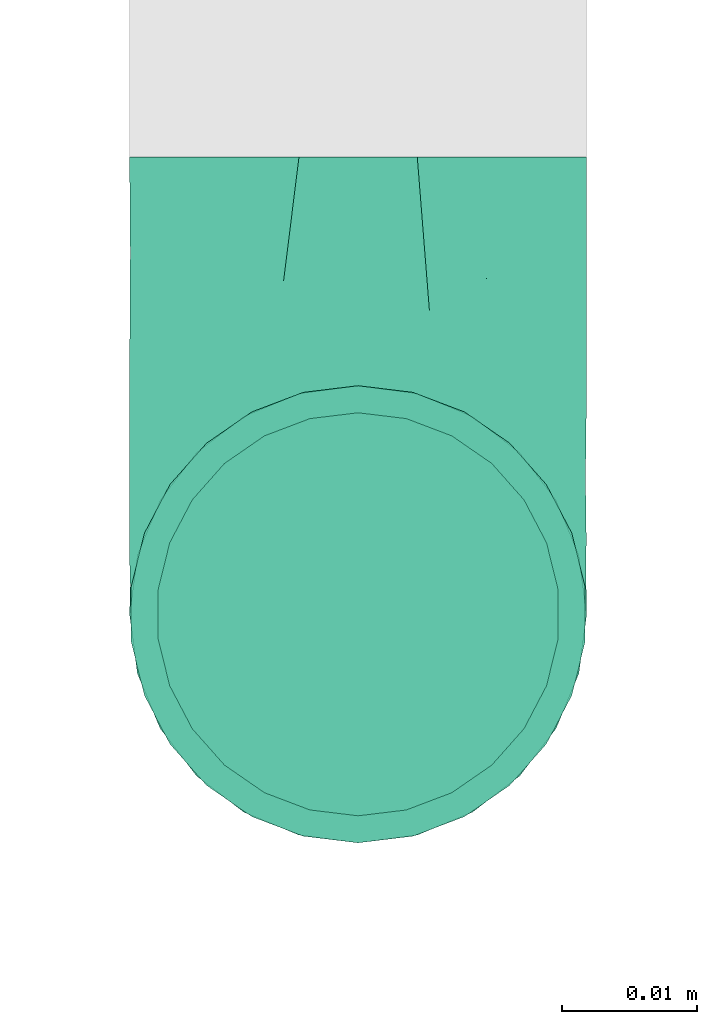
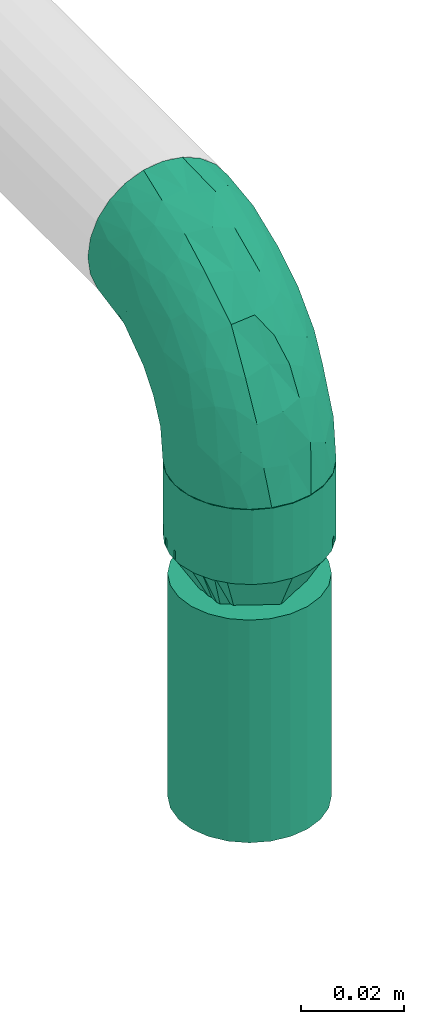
# One storey, part 14 of 32: 2 flow fittings, 1 flow segment, 1 flow terminal.
"""IFC2X3 building model written with IfcOpenShell, lengths in millimetres."""

from ifc_helpers import new_model, entity, si_unit, converted_unit, derived_unit, direction, frame, origin_with_axes, origin_2d_with_axis, place, context, subcontext, project, spatial, hollow_circle, extrude, open_shell, surface_model, source, transform, mapped, type_object, element, save


model = new_model("IFC2X3")

# Units and contexts
model_context = context("Model", 3, precision=0.01, world=frame((0.0, 4.29681676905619e-09, 0.0)), true_north=direction((4.01073788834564e-13, 1.0)))
plan_context = context("Plan", 3, precision=0.01, world=frame((0.0, 4.29681676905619e-09, 0.0)), true_north=direction((4.01073788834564e-13, 1.0)))
body_context = subcontext(model_context, "Body", "Model", "MODEL_VIEW")
ifc_project = project(units=[converted_unit("PLANEANGLEUNIT", "DEGREE", entity("IfcPositiveLengthMeasure", 0.0174532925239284), si_unit("PLANEANGLEUNIT", "RADIAN"), dimensions=[0, 0, 0, 0, 0, 0, 0]), si_unit("AREAUNIT", "SQUARE_METRE"), si_unit("LENGTHUNIT", "METRE", prefix="MILLI"), si_unit("MASSUNIT", "GRAM", prefix="KILO"), si_unit("POWERUNIT", "WATT"), si_unit("PRESSUREUNIT", "PASCAL", prefix="KILO"), si_unit("FORCEUNIT", "NEWTON", prefix="KILO"), si_unit("ELECTRICVOLTAGEUNIT", "VOLT"), si_unit("ELECTRICCURRENTUNIT", "AMPERE"), si_unit("THERMODYNAMICTEMPERATUREUNIT", "DEGREE_CELSIUS"), si_unit("TIMEUNIT", "SECOND"), si_unit("VOLUMEUNIT", "CUBIC_METRE"), derived_unit("LINEARVELOCITYUNIT", [(si_unit("LENGTHUNIT", "METRE"), 1), (si_unit("TIMEUNIT", "SECOND"), -1)]), derived_unit("VOLUMETRICFLOWRATEUNIT", [(si_unit("VOLUMEUNIT", "CUBIC_METRE"), 1), (si_unit("TIMEUNIT", "SECOND"), -1)]), derived_unit("THERMALTRANSMITTANCEUNIT", [(si_unit("POWERUNIT", "WATT"), 1), (si_unit("THERMODYNAMICTEMPERATUREUNIT", "KELVIN"), -1), (si_unit("AREAUNIT", "SQUARE_METRE"), -1)]), derived_unit("SOUNDPRESSUREUNIT", [(si_unit("PRESSUREUNIT", "PASCAL"), 1)])], contexts=[model_context, plan_context])

# Site, building, storey
site_placement = place(None, frame((0.0, -4.29681676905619e-09, 0.0), z_axis=(0.0, 0.0, 1.0), x_axis=(1.0, 0.0, 0.0)))
site = spatial("IfcSite", under=ifc_project, at=site_placement, CompositionType="ELEMENT")
building_placement = place(site_placement, frame((0.0, 4.29681676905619e-09, 0.0), z_axis=(0.0, 0.0, 1.0), x_axis=(1.0, 0.0, 0.0)))
building = spatial("IfcBuilding", under=site, at=building_placement, Name="mc-building", CompositionType="ELEMENT")
storey_placement = place(building_placement, frame((0.0, 0.0, 205200.0), z_axis=(0.0, 0.0, 1.0), x_axis=(1.0, 0.0, 0.0)))
storey = spatial("IfcBuildingStorey", under=building, at=storey_placement, Name="Nivå D + 1,2 m", CompositionType="ELEMENT", Elevation=205200.0)

# Flow fittings
pipe_fitting_type_1 = type_object("IfcPipeFittingType", Name="magi_pipe_fe_elbow_short_001", PredefinedType="BEND")
shared_shape_1 = source(origin_with_axes(), body_context, "Body", "SurfaceModel", [
    surface_model("IfcShellBasedSurfaceModel", [(-33.8, -11.9501, -11.9501), (-33.8, -14.63583, -8.45), (-33.8, -8.45, -14.63583), (-33.8, 0.0, -16.9), (-33.8, -4.37404, -16.32415), (-33.8, -16.32415, -4.37404), (-33.8, -16.9, 0.0), (-33.8, 11.9501, 11.9501), (-33.8, 14.63583, 8.45), (-33.8, 8.45, 14.63583), (-33.8, -11.9501, 11.9501), (-33.8, -8.45, 14.63583), (-33.8, -14.63583, 8.45), (-33.8, -16.32415, 4.37404), (-33.8, -4.37404, 16.32415), (-33.8, 0.0, 16.9), (-33.8, 16.9, 0.0), (-33.8, 16.32415, -4.37404), (-33.8, 16.32415, 4.37404), (-33.8, 4.37404, -16.32415), (-33.8, 8.45, -14.63583), (-33.8, 14.63583, -8.45), (-33.8, 11.9501, -11.9501), (-33.8, 4.37404, 16.32415), (-4.37404, 33.8, -16.32415), (16.9, 33.8, 0.0), (0.0, 33.8, -16.9), (-16.32415, 33.8, -4.37404), (-8.45, 33.8, -14.63583), (-14.63583, 33.8, -8.45), (-11.9501, 33.8, -11.9501), (16.32415, 33.8, 4.37404), (8.45, 33.8, -14.63583), (14.63583, 33.8, -8.45), (11.9501, 33.8, -11.9501), (4.37404, 33.8, -16.32415), (16.32415, 33.8, -4.37404), (-16.32415, 33.8, 4.37404), (-4.37404, 33.8, 16.32415), (-14.63583, 33.8, 8.45), (-8.45, 33.8, 14.63583), (-11.9501, 33.8, 11.9501), (14.63583, 33.8, 8.45), (8.45, 33.8, 14.63583), (11.9501, 33.8, 11.9501), (0.0, 33.8, 16.9), (4.37404, 33.8, 16.32415), (-16.9, 33.8, 0.0), (-24.79389, -13.12945, 9.48721), (-22.19287, -9.75018, 12.59315), (-24.09897, -14.97035, 0.0), (-14.93934, -10.76256, 8.5297), (-22.46095, -14.75051, 5.27077), (14.75051, 22.46094, 5.27077), (11.9251, 13.23888, 4.33236), (13.04069, 14.39795, 0.0), (7.71387, 13.68847, 11.55891), (9.75018, 22.19287, 12.59315), (4.10169, 13.0571, 14.04018), (-24.84007, -6.39063, 15.2048), (-25.81779, -2.23879, 16.61097), (-23.66549, 2.59054, 16.87119), (-26.50418, 14.06512, 11.08152), (-24.21253, 17.66365, 7.72657), (-29.58514, 15.86957, 7.00283), (-6.17382, -7.5455, 0.0), (-13.23888, -11.9251, 4.33236), (-14.39795, -13.04069, 0.0), (-17.81434, 18.87373, 11.97104), (-6.30846, 29.15138, 15.82987), (-2.31622, 25.28002, 16.85849), (-29.23923, 10.23435, 13.77053), (-1.45439, -2.85688, 7.61475), (-0.28326, 0.34872, 10.09509), (-5.74484, -4.04709, 10.4122), (-4.41137, 11.31918, 16.59407), (-8.39727, 3.10034, 15.7812), (-1.72649, 9.1306, 15.53089), (-17.39909, 24.75344, 7.64977), (-26.19233, 20.0512, 0.0), (-28.14518, 17.29657, 4.25857), (-26.05147, 6.6281, 15.96447), (-5.87354, 16.61944, 16.86968), (-12.51807, 12.51807, 16.48937), (-10.06312, 7.38516, 16.81295), (-3.01882, 3.01882, 13.81718), (-13.0571, -4.10169, 14.04018), (-16.82553, -0.15166, 16.38038), (10.76256, 14.93934, 8.5297), (13.12945, 24.79389, 9.48721), (6.39063, 24.84007, 15.2048), (2.23879, 25.81779, 16.61097), (-13.68847, -7.71387, 11.55891), (14.97035, 24.09897, 0.0), (-7.30894, 22.89991, 16.09489), (-10.67958, 26.17414, 14.008), (-12.78295, 18.26924, 15.06066), (-13.88562, 22.45231, 12.93244), (-18.04944, 15.16501, 14.04434), (-23.11658, 20.08178, 4.02986), (-21.84989, 21.84989, 0.0), (-18.55817, 25.48277, 3.93065), (-13.95142, 26.94732, 11.03289), (-18.57098, 7.23906, 16.59756), (-16.58335, 4.14122, 16.89279), (-17.96666, 11.46709, 15.63151), (-9.84453, 17.54304, 16.18938), (0.15166, 16.82553, 16.38038), (-23.27207, 11.47201, 14.23154), (3.84842, 5.86994, 10.70473), (-8.0212, -7.54413, 7.93275), (1.00345, -2.19508, 4.57414), (5.13203, 3.01004, 5.90201), (5.24161, 1.7543, 2.53265), (8.70457, 7.04947, 3.99182), (-20.0512, 26.19233, 0.0), (8.4852, 8.76699, 7.09296), (-4.55488, -6.72064, 4.90681), (2.05031, -2.05031, 0.0), (7.5455, 6.17382, 0.0), (-26.75399, 2.1369, -16.845), (-14.61995, 24.73803, -11.27736), (-28.45274, -13.45335, -9.81895), (-26.00469, 6.63555, -15.96645), (-23.06726, 20.04573, -4.26202), (-13.80647, -4.26506, -14.17873), (-14.67501, -0.21081, -16.07388), (-6.7902, -0.2828, -13.8478), (-24.53586, 11.08096, -14.13417), (-26.72048, 14.00837, -11.05776), (10.0967, 24.44989, -12.75976), (5.83237, 21.40218, -15.03047), (6.66249, 28.54238, -15.38093), (-20.38182, 15.48705, -12.74596), (12.53268, 21.23441, -9.15363), (12.54494, 15.67504, -5.54878), (9.7522, 12.89279, -8.66343), (-15.65186, 19.64213, -13.01327), (-12.03528, 20.66498, -14.67665), (-15.61907, 15.61906, -14.83879), (-25.56551, -15.26206, 0.0), (-24.65452, -15.12934, -5.50955), (13.45335, 28.45274, -9.81895), (15.12934, 24.65452, -5.50955), (-7.35442, -8.31014, -5.65563), (-15.67504, -12.54494, -5.54878), (-24.44989, -10.0967, -12.75976), (0.16522, 0.41303, -9.71728), (-5.70658, -5.33066, -8.89288), (-5.13869, -2.37198, -11.53565), (-21.23441, -12.53268, -9.15363), (0.71146, 7.93863, -14.09382), (0.21081, 14.67501, -16.07388), (3.49291, 14.42772, -14.76381), (-24.89911, -2.13088, -16.591), (-28.54238, -6.66249, -15.38093), (-18.44386, -7.71663, -13.26957), (2.13088, 24.89911, -16.591), (-28.64342, 17.44413, -2.89318), (1.70017, -1.28722, -5.09504), (-16.57067, 26.81947, -7.36596), (-17.69055, 27.4263, -3.76405), (-12.89279, -9.7522, -8.66343), (-5.96611, 5.96611, -15.95814), (-20.53709, 20.09345, -8.28985), (-2.1369, 26.75399, -16.845), (-6.89872, 24.58781, -16.02578), (-10.60739, 26.53157, -13.98044), (-21.40218, -5.83237, -15.03047), (2.93192, 5.89627, -11.55917), (6.89393, 12.61842, -11.82233), (5.58056, 5.95325, -8.79455), (-3.99512, 18.61798, -16.89635), (8.31014, 7.35442, -5.65563), (-9.1383, 9.86148, -16.89041), (-9.99983, 16.02119, -16.39699), (-16.68576, 9.78031, -16.34199), (-27.01915, 16.61158, -7.12979), (15.26206, 25.56551, 0.0), (-18.61798, 3.99512, -16.89635), (-19.37495, 27.82495, 0.0), (-12.61842, -6.89393, -11.82233), (-18.84705, 19.14018, -10.96545)], [open_shell([[[0, 1, 2]], [[3, 4, 2]], [[5, 6, 1]], [[7, 8, 9]], [[10, 11, 12]], [[13, 12, 11]], [[14, 15, 11]], [[16, 17, 18]], [[3, 6, 19]], [[20, 19, 17]], [[20, 17, 21]], [[22, 20, 21]], [[17, 19, 6]], [[2, 1, 6]], [[2, 6, 3]], [[6, 18, 17]], [[23, 18, 6]], [[8, 18, 23]], [[8, 23, 9]], [[13, 23, 6]], [[23, 13, 11]], [[11, 15, 23]], [[24, 25, 26]], [[27, 24, 28]], [[29, 27, 28]], [[29, 28, 30]], [[31, 25, 24]], [[32, 33, 34]], [[32, 35, 26]], [[33, 25, 36]], [[33, 32, 26]], [[25, 33, 26]], [[24, 27, 37]], [[31, 24, 37]], [[38, 37, 39]], [[40, 38, 39]], [[40, 39, 41]], [[31, 37, 38]], [[42, 43, 44]], [[43, 42, 31]], [[43, 45, 46]], [[43, 31, 38]], [[38, 45, 43]], [[37, 27, 47]], [[10, 48, 49]], [[13, 6, 50]], [[51, 48, 52]], [[53, 54, 55]], [[48, 10, 12]], [[13, 52, 12]], [[56, 57, 58]], [[49, 11, 10]], [[49, 59, 11]], [[15, 60, 61]], [[62, 63, 64]], [[65, 66, 67]], [[57, 44, 43]], [[62, 68, 63]], [[38, 69, 70]], [[9, 71, 7]], [[14, 60, 15]], [[72, 73, 74]], [[75, 76, 77]], [[7, 62, 8]], [[39, 37, 78]], [[79, 16, 80]], [[64, 18, 8]], [[15, 61, 23]], [[23, 81, 9]], [[82, 83, 84]], [[74, 85, 86]], [[59, 86, 87]], [[88, 89, 57]], [[90, 43, 46]], [[42, 53, 31]], [[46, 45, 91]], [[54, 53, 88]], [[42, 89, 53]], [[92, 86, 49]], [[89, 42, 44]], [[11, 59, 14]], [[53, 55, 93]], [[93, 31, 53]], [[66, 52, 67]], [[94, 82, 70]], [[95, 96, 94]], [[97, 98, 96]], [[79, 99, 100]], [[40, 41, 95]], [[101, 100, 99]], [[68, 78, 63]], [[38, 40, 69]], [[16, 18, 80]], [[95, 94, 69]], [[78, 101, 99]], [[41, 102, 95]], [[70, 45, 38]], [[97, 95, 102]], [[13, 50, 52]], [[90, 57, 43]], [[57, 90, 58]], [[81, 23, 61]], [[103, 104, 84]], [[105, 81, 103]], [[41, 39, 102]], [[106, 96, 83]], [[94, 106, 82]], [[91, 70, 107]], [[71, 62, 7]], [[62, 108, 98]], [[86, 59, 49]], [[67, 52, 50]], [[60, 59, 87]], [[92, 49, 51]], [[86, 85, 76]], [[91, 90, 46]], [[25, 31, 93]], [[107, 77, 58]], [[107, 58, 90]], [[58, 85, 109]], [[110, 74, 92]], [[72, 74, 110]], [[66, 51, 52]], [[72, 111, 112]], [[113, 114, 112]], [[56, 88, 57]], [[52, 48, 12]], [[49, 48, 51]], [[57, 89, 44]], [[53, 89, 88]], [[103, 81, 61]], [[71, 81, 108]], [[18, 64, 80]], [[63, 78, 99]], [[47, 115, 101]], [[101, 115, 100]], [[39, 78, 102]], [[68, 102, 78]], [[97, 96, 95]], [[105, 98, 108]], [[103, 84, 83]], [[107, 70, 82]], [[76, 84, 87]], [[82, 84, 75]], [[70, 91, 45]], [[90, 91, 107]], [[59, 60, 14]], [[61, 60, 87]], [[73, 85, 74]], [[109, 112, 116]], [[103, 61, 104]], [[105, 103, 83]], [[96, 105, 83]], [[81, 105, 108]], [[96, 98, 105]], [[62, 98, 68]], [[61, 87, 104]], [[87, 84, 104]], [[86, 76, 87]], [[77, 76, 85]], [[58, 77, 85]], [[75, 77, 107]], [[82, 75, 107]], [[76, 75, 84]], [[81, 71, 9]], [[62, 71, 108]], [[95, 69, 40]], [[70, 69, 94]], [[62, 64, 8]], [[80, 63, 99]], [[63, 80, 64]], [[80, 99, 79]], [[66, 65, 117]], [[110, 66, 117]], [[112, 114, 116]], [[118, 117, 65]], [[110, 92, 51]], [[112, 111, 113]], [[119, 55, 54]], [[74, 86, 92]], [[58, 109, 56]], [[116, 56, 109]], [[66, 110, 51]], [[72, 110, 117]], [[111, 72, 117]], [[73, 112, 109]], [[117, 118, 111]], [[113, 111, 118]], [[118, 119, 113]], [[114, 119, 54]], [[119, 114, 113]], [[116, 54, 88]], [[54, 116, 114]], [[116, 88, 56]], [[112, 73, 72]], [[85, 73, 109]], [[78, 37, 101]], [[47, 101, 37]], [[102, 68, 97]], [[97, 68, 98]], [[82, 106, 83]], [[94, 96, 106]], [[19, 120, 3]], [[29, 30, 121]], [[0, 122, 1]], [[20, 123, 19]], [[100, 124, 79]], [[125, 126, 127]], [[128, 22, 129]], [[130, 131, 132]], [[128, 129, 133]], [[134, 135, 136]], [[137, 138, 139]], [[128, 20, 22]], [[67, 140, 141]], [[134, 142, 143]], [[141, 5, 1]], [[144, 65, 145]], [[146, 0, 2]], [[147, 148, 149]], [[145, 141, 150]], [[151, 152, 153]], [[154, 4, 3]], [[2, 155, 146]], [[150, 146, 156]], [[155, 2, 4]], [[143, 135, 134]], [[35, 157, 26]], [[16, 79, 158]], [[148, 159, 144]], [[160, 161, 27]], [[145, 162, 144]], [[163, 152, 151]], [[27, 29, 160]], [[121, 164, 160]], [[32, 34, 130]], [[26, 165, 24]], [[24, 165, 166]], [[142, 34, 33]], [[30, 28, 167]], [[124, 161, 164]], [[157, 35, 132]], [[155, 154, 168]], [[123, 20, 128]], [[169, 170, 171]], [[172, 157, 152]], [[24, 166, 28]], [[132, 35, 32]], [[142, 130, 34]], [[168, 154, 126]], [[136, 135, 173]], [[133, 137, 139]], [[22, 21, 129]], [[170, 131, 130]], [[33, 36, 143]], [[172, 174, 175]], [[176, 123, 128]], [[158, 177, 17]], [[135, 55, 119]], [[167, 28, 166]], [[175, 166, 172]], [[137, 167, 138]], [[122, 141, 1]], [[140, 6, 5]], [[36, 25, 178]], [[170, 130, 134]], [[152, 157, 131]], [[165, 157, 172]], [[153, 170, 151]], [[152, 163, 174]], [[168, 125, 156]], [[122, 146, 150]], [[120, 154, 3]], [[179, 174, 126]], [[179, 126, 154]], [[126, 163, 127]], [[162, 145, 150]], [[140, 5, 141]], [[36, 178, 143]], [[55, 143, 178]], [[177, 129, 21]], [[128, 133, 139]], [[176, 128, 139]], [[120, 123, 179]], [[121, 160, 29]], [[161, 100, 180]], [[166, 175, 138]], [[121, 30, 167]], [[161, 47, 27]], [[79, 124, 158]], [[124, 164, 177]], [[161, 124, 100]], [[136, 171, 170]], [[127, 163, 151]], [[147, 171, 159]], [[148, 144, 162]], [[127, 151, 169]], [[127, 181, 125]], [[129, 177, 164]], [[21, 17, 177]], [[159, 65, 144]], [[67, 141, 145]], [[143, 55, 135]], [[135, 119, 173]], [[123, 120, 19]], [[154, 120, 179]], [[157, 165, 26]], [[166, 165, 172]], [[172, 152, 174]], [[176, 139, 175]], [[126, 174, 163]], [[176, 174, 179]], [[174, 176, 175]], [[123, 176, 179]], [[150, 181, 162]], [[127, 149, 181]], [[181, 148, 162]], [[159, 148, 147]], [[171, 136, 173]], [[170, 134, 136]], [[159, 171, 173]], [[171, 147, 169]], [[169, 147, 149]], [[151, 170, 169]], [[164, 182, 129]], [[182, 121, 137]], [[181, 149, 148]], [[169, 149, 127]], [[182, 137, 133]], [[167, 137, 121]], [[166, 138, 167]], [[175, 139, 138]], [[129, 182, 133]], [[121, 182, 164]], [[161, 160, 164]], [[47, 161, 180]], [[177, 158, 124]], [[16, 158, 17]], [[130, 132, 32]], [[157, 132, 131]], [[143, 142, 33]], [[130, 142, 134]], [[154, 155, 4]], [[146, 155, 168]], [[146, 122, 0]], [[141, 122, 150]], [[152, 131, 153]], [[159, 119, 118]], [[67, 145, 65]], [[170, 153, 131]], [[119, 159, 173]], [[159, 118, 65]], [[156, 125, 181]], [[126, 125, 168]], [[150, 156, 181]], [[168, 156, 146]]])]),
])
flow_fitting_1_placement = place(storey_placement, frame((338467.5, 460353.43146, 4424.13733999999), z_axis=(1.0, 0.0, 0.0), x_axis=(0.0, -1.0, 0.0)))
element("IfcFlowFitting", 1, at=flow_fitting_1_placement, inside=storey, type_object=pipe_fitting_type_1, Name="magi_pipe_fe_elbow_short_001", context=body_context, shape_type="MappedRepresentation", body=[
    mapped(shared_shape_1, transform((0.0, 0.0, 0.0), scale=1.0)),
])
pipe_fitting_type_2 = type_object("IfcPipeFittingType", Name="magi_pipe_fe_reducer_centric_short_001", PredefinedType="TRANSITION")
shared_shape_2 = source(origin_with_axes(), body_context, "Body", "SurfaceModel", [
    surface_model("IfcShellBasedSurfaceModel", [(-2.0, 11.9501, 11.9501), (-2.0, 0.0, 16.9), (-2.0, 4.37404, 16.32415), (-2.0, 8.45, 14.63583), (-2.0, 14.63583, 8.45), (-2.0, 16.32415, 4.37404), (-2.0, -16.32415, 4.37404), (-2.0, -8.45, 14.63583), (-2.0, -14.63583, 8.45), (-2.0, -11.9501, 11.9501), (-2.0, -4.37404, 16.32415), (-2.0, -16.32415, -4.37404), (-2.0, -16.9, 0.0), (-2.0, -8.45, -14.63583), (-2.0, 16.32415, -4.37404), (-2.0, 11.9501, -11.9501), (-2.0, 14.63583, -8.45), (-2.0, 8.45, -14.63583), (-2.0, 4.37404, -16.32415), (-2.0, 0.0, -16.9), (-2.0, -11.9501, -11.9501), (-2.0, -14.63583, -8.45), (-2.0, -4.37404, -16.32415), (-2.0, 16.9, 0.0), (0.0, 4.37404, -16.32415), (0.0, 8.45, -14.63583), (0.0, 11.9501, -11.9501), (0.0, 0.0, -16.9), (0.0, 16.32415, -4.37404), (0.0, 16.32415, 4.37404), (0.0, 14.63583, -8.45), (0.0, -8.45, -14.63583), (0.0, -4.37404, -16.32415), (0.0, -11.9501, -11.9501), (0.0, -16.32415, -4.37404), (0.0, -14.63583, -8.45), (0.0, -16.32415, 4.37404), (0.0, 16.9, 0.0), (0.0, 14.63583, 8.45), (0.0, 11.9501, 11.9501), (0.0, 4.37404, 16.32415), (0.0, 8.45, 14.63583), (0.0, 0.0, 16.9), (0.0, -14.63583, 8.45), (0.0, -16.9, 0.0), (0.0, -8.45, 14.63583), (0.0, -11.9501, 11.9501), (0.0, -4.37404, 16.32415), (14.4, 5.35, -9.26647), (14.4, 0.0, -10.7), (14.4, 2.76936, -10.33541), (14.4, 10.33541, -2.76936), (14.4, 7.56604, -7.56604), (14.4, -5.35, -9.26647), (14.4, 9.26647, -5.35), (14.4, -9.26647, 5.35), (14.4, -2.76936, -10.33541), (14.4, -7.56604, -7.56604), (14.4, -10.33541, -2.76936), (14.4, -9.26647, -5.35), (14.4, 10.33541, 2.76936), (14.4, 10.7, 0.0), (14.4, 9.26647, 5.35), (14.4, 7.56604, 7.56604), (14.4, 2.76936, 10.33541), (14.4, 0.0, 10.7), (14.4, 5.35, 9.26647), (14.4, -10.33541, 2.76936), (14.4, -10.7, 0.0), (14.4, -7.56604, 7.56604), (14.4, -2.76936, 10.33541), (14.4, -5.35, 9.26647), (12.4, 0.0, 10.7), (12.4, 2.76936, 10.33541), (12.4, 5.35, 9.26647), (12.4, 7.56604, 7.56604), (12.4, 9.26647, 5.35), (12.4, 10.33541, 2.76936), (12.4, -10.33541, 2.76936), (12.4, 10.33541, -2.76936), (12.4, -2.76936, 10.33541), (12.4, -7.56604, 7.56604), (12.4, -5.35, 9.26647), (12.4, -9.26647, 5.35), (12.4, -10.33541, -2.76936), (12.4, -10.7, 0.0), (12.4, 2.76936, -10.33541), (12.4, 9.26647, -5.35), (12.4, 7.56604, -7.56604), (12.4, 5.35, -9.26647), (12.4, -7.56604, -7.56604), (12.4, -9.26647, -5.35), (12.4, -5.35, -9.26647), (12.4, 0.0, -10.7), (12.4, -2.76936, -10.33541), (12.4, 10.7, 0.0), (12.4, 9.3625, -2.31662), (0.0, 14.42505, -5.97505), (0.0, 15.66253, -2.98753), (12.4, -6.6875, -6.94985), (0.0, -13.18758, -8.96258), (0.0, 2.98753, -15.66253), (12.4, 0.0, -9.26647), (12.4, 6.6875, -6.94985), (0.0, 8.96258, -13.18758), (12.4, -9.3625, -2.31662), (0.0, -15.66253, -2.98753), (0.0, -14.42505, -5.97505), (0.0, 5.97505, -14.42505), (0.0, -2.98753, -15.66253), (0.0, -8.96258, -13.18758), (0.0, 13.18758, -8.96258), (12.4, 8.025, -4.63324), (12.4, -2.675, -9.26647), (12.4, 2.675, -9.26647), (0.0, -5.97505, -14.42505), (12.4, -8.025, -4.63324), (12.4, -9.3625, 2.31662), (0.0, -14.42505, 5.97505), (0.0, -15.66253, 2.98753), (12.4, 6.6875, 6.94985), (0.0, 13.18758, 8.96258), (0.0, -2.98753, 15.66253), (12.4, 0.0, 9.26647), (12.4, -6.6875, 6.94985), (0.0, -8.96258, 13.18758), (12.4, 9.3625, 2.31662), (0.0, 15.66253, 2.98753), (0.0, 14.42505, 5.97505), (0.0, -5.97505, 14.42505), (0.0, 2.98753, 15.66253), (0.0, 8.96258, 13.18758), (0.0, -13.18758, 8.96258), (12.4, -8.025, 4.63324), (12.4, 2.675, 9.26647), (12.4, -2.675, 9.26647), (0.0, 5.97505, 14.42505), (12.4, 8.025, 4.63324)], [open_shell([[[0, 1, 2]], [[0, 2, 3]], [[0, 4, 5]], [[0, 5, 1]], [[1, 5, 6]], [[7, 8, 9]], [[7, 10, 1]], [[8, 7, 1]], [[1, 6, 8]], [[6, 11, 12]], [[6, 5, 13]], [[5, 14, 15]], [[15, 14, 16]], [[15, 17, 18]], [[13, 5, 15]], [[19, 15, 18]], [[11, 20, 21]], [[20, 11, 13]], [[13, 19, 22]], [[11, 6, 13]], [[15, 19, 13]], [[5, 23, 14]], [[24, 25, 26]], [[27, 24, 26]], [[26, 28, 29]], [[28, 26, 30]], [[26, 29, 31]], [[27, 31, 32]], [[27, 26, 31]], [[33, 34, 35]], [[34, 33, 31]], [[31, 36, 34]], [[29, 28, 37]], [[29, 38, 39]], [[29, 39, 40]], [[40, 36, 31]], [[40, 39, 41]], [[36, 40, 42]], [[42, 43, 36]], [[44, 34, 36]], [[43, 45, 46]], [[43, 42, 45]], [[45, 42, 47]], [[31, 29, 40]], [[11, 34, 12]], [[21, 35, 11]], [[31, 20, 13]], [[21, 20, 33]], [[32, 13, 22]], [[11, 35, 34]], [[34, 44, 12]], [[32, 31, 13]], [[33, 20, 31]], [[33, 35, 21]], [[27, 32, 22]], [[22, 19, 27]], [[18, 24, 19]], [[17, 25, 18]], [[30, 15, 16]], [[17, 15, 26]], [[28, 16, 14]], [[17, 26, 25]], [[25, 24, 18]], [[37, 28, 14]], [[30, 16, 28]], [[30, 26, 15]], [[23, 37, 14]], [[19, 24, 27]], [[5, 29, 23]], [[4, 38, 5]], [[41, 0, 3]], [[4, 0, 39]], [[40, 3, 2]], [[5, 38, 29]], [[29, 37, 23]], [[40, 41, 3]], [[39, 0, 41]], [[39, 38, 4]], [[42, 40, 2]], [[2, 1, 42]], [[10, 47, 1]], [[7, 45, 10]], [[43, 9, 8]], [[7, 9, 46]], [[36, 8, 6]], [[7, 46, 45]], [[45, 47, 10]], [[44, 36, 6]], [[43, 8, 36]], [[43, 46, 9]], [[12, 44, 6]], [[1, 47, 42]], [[33, 44, 27]], [[48, 49, 50]], [[51, 48, 52]], [[53, 48, 51]], [[51, 52, 54]], [[55, 53, 51]], [[49, 53, 56]], [[49, 48, 53]], [[57, 58, 59]], [[58, 57, 53]], [[53, 55, 58]], [[60, 51, 61]], [[60, 62, 63]], [[51, 63, 55]], [[64, 65, 63]], [[64, 63, 66]], [[55, 63, 65]], [[58, 67, 68]], [[55, 67, 58]], [[69, 70, 71]], [[70, 69, 55]], [[65, 70, 55]], [[51, 60, 63]], [[72, 73, 74]], [[72, 74, 75]], [[75, 76, 77]], [[72, 75, 78]], [[79, 78, 75]], [[80, 81, 82]], [[81, 80, 78]], [[81, 78, 83]], [[80, 72, 78]], [[78, 84, 85]], [[79, 75, 77]], [[84, 78, 79]], [[86, 79, 87]], [[88, 89, 86]], [[88, 86, 87]], [[84, 79, 86]], [[84, 90, 91]], [[90, 84, 92]], [[92, 93, 94]], [[92, 84, 86]], [[86, 93, 92]], [[79, 77, 95]], [[84, 58, 85]], [[91, 59, 84]], [[53, 90, 92]], [[91, 90, 57]], [[56, 92, 94]], [[84, 59, 58]], [[58, 68, 85]], [[56, 53, 92]], [[57, 90, 53]], [[57, 59, 91]], [[49, 56, 94]], [[94, 93, 49]], [[86, 50, 93]], [[89, 48, 86]], [[54, 88, 87]], [[89, 88, 52]], [[51, 87, 79]], [[89, 52, 48]], [[48, 50, 86]], [[61, 51, 79]], [[54, 87, 51]], [[54, 52, 88]], [[95, 61, 79]], [[93, 50, 49]], [[77, 60, 95]], [[76, 62, 77]], [[66, 75, 74]], [[76, 75, 63]], [[64, 74, 73]], [[77, 62, 60]], [[60, 61, 95]], [[64, 66, 74]], [[63, 75, 66]], [[63, 62, 76]], [[65, 64, 73]], [[73, 72, 65]], [[80, 70, 72]], [[82, 71, 80]], [[55, 81, 83]], [[82, 81, 69]], [[67, 83, 78]], [[82, 69, 71]], [[71, 70, 80]], [[68, 67, 78]], [[55, 83, 67]], [[55, 69, 81]], [[85, 68, 78]], [[72, 70, 65]], [[74, 82, 95]], [[95, 82, 92]], [[92, 89, 95]], [[92, 82, 85]], [[42, 39, 44]], [[44, 46, 42]], [[39, 26, 44]], [[27, 44, 26]], [[26, 39, 37]], [[96, 97, 98]], [[33, 99, 100]], [[101, 102, 27]], [[98, 37, 95]], [[26, 103, 104]], [[104, 103, 89]], [[105, 106, 107]], [[89, 108, 104]], [[102, 109, 27]], [[110, 99, 33]], [[95, 96, 98]], [[103, 111, 112]], [[109, 102, 113]], [[85, 44, 106]], [[102, 101, 114]], [[110, 115, 92]], [[96, 112, 97]], [[107, 116, 105]], [[85, 106, 105]], [[113, 115, 109]], [[92, 115, 113]], [[116, 107, 100]], [[108, 89, 114]], [[111, 103, 26]], [[111, 97, 112]], [[99, 110, 92]], [[116, 100, 99]], [[101, 108, 114]], [[117, 118, 119]], [[39, 120, 121]], [[122, 123, 42]], [[119, 44, 85]], [[46, 124, 125]], [[125, 124, 82]], [[126, 127, 128]], [[82, 129, 125]], [[123, 130, 42]], [[131, 120, 39]], [[85, 117, 119]], [[124, 132, 133]], [[130, 123, 134]], [[95, 37, 127]], [[123, 122, 135]], [[131, 136, 74]], [[117, 133, 118]], [[128, 137, 126]], [[95, 127, 126]], [[134, 136, 130]], [[74, 136, 134]], [[137, 128, 121]], [[129, 82, 135]], [[132, 124, 46]], [[132, 118, 133]], [[120, 131, 74]], [[137, 121, 120]], [[122, 129, 135]]])]),
])
flow_fitting_2_placement = place(storey_placement, frame((338467.5, 460353.43146, 4372.78346000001), z_axis=(1.0, 0.0, 0.0), x_axis=(0.0, 0.0, -1.0)))
element("IfcFlowFitting", 2, at=flow_fitting_2_placement, inside=storey, type_object=pipe_fitting_type_2, Name="magi_pipe_fe_reducer_centric_short_001", context=body_context, shape_type="MappedRepresentation", body=[
    mapped(shared_shape_2, transform((0.0, 0.0, 0.0), scale=1.0)),
])

# Flow segment
pipe_segment_type = type_object("IfcPipeSegmentType", Name="Stålrør normaltykke", PredefinedType="RIGIDSEGMENT")
shared_shape_3 = source(origin_with_axes(), body_context, "Body", "SweptSolid", [
    extrude(hollow_circle(Radius=16.9, WallThickness=2.0, at=origin_2d_with_axis()), frame((0.0, 0.0, 0.0), z_axis=(1.0, 0.0, 0.0), x_axis=(0.0, 1.0, 0.0)), (0.0, 0.0, 1.0), 17.8),
])
flow_segment_placement = place(storey_placement, frame((338467.5, 460353.43146, 4390.33734), z_axis=(-1.0, 0.0, 0.0), x_axis=(0.0, 0.0, -1.0)))
element("IfcFlowSegment", 3, at=flow_segment_placement, inside=storey, type_object=pipe_segment_type, Name="Stålrør normaltykke", context=body_context, shape_type="MappedRepresentation", body=[
    mapped(shared_shape_3, transform((0.0, 0.0, 0.0), scale=1.0)),
])

# Flow terminal
fire_suppression_terminal_type = type_object("IfcFireSuppressionTerminalType", Name="SP-15-K80-68DGR-STD-NEDOVER", PredefinedType="NOTDEFINED")
shared_shape_4 = source(origin_with_axes(), body_context, "Body", "SurfaceModel", [
    surface_model("IfcShellBasedSurfaceModel", [(4.1411, -15.45481, 53.0), (8.0, -13.85641, 53.0), (11.31371, -11.31371, 53.0), (-8.0, -13.85641, 53.0), (15.45481, -4.1411, 53.0), (16.0, 0.0, 53.0), (13.85641, -8.0, 53.0), (0.0, -16.0, 53.0), (-4.1411, -15.45481, 53.0), (-13.85641, -8.0, 53.0), (-11.31371, -11.31371, 53.0), (-15.45481, -4.1411, 53.0), (15.45481, 4.1411, 53.0), (13.85641, 8.0, 53.0), (11.31371, 11.31371, 53.0), (-4.1411, 15.45481, 53.0), (8.0, 13.85641, 53.0), (4.1411, 15.45481, 53.0), (0.0, 16.0, 53.0), (-13.85641, 8.0, 53.0), (-15.45481, 4.1411, 53.0), (-16.0, 0.0, 53.0), (-11.31371, 11.31371, 53.0), (-8.0, 13.85641, 53.0), (0.0, 16.0, 0.0), (4.1411, 15.45481, 0.0), (8.0, 13.85641, 0.0), (-4.1411, 15.45481, 0.0), (11.31371, 11.31371, 0.0), (13.85641, 8.0, 0.0), (15.45481, 4.1411, 0.0), (-15.45481, -4.1411, 0.0), (-11.31371, 11.31371, 0.0), (-8.0, 13.85641, 0.0), (-13.85641, 8.0, 0.0), (-15.45481, 4.1411, 0.0), (-16.0, 0.0, 0.0), (4.1411, -15.45481, 0.0), (16.0, 0.0, 0.0), (15.45481, -4.1411, 0.0), (13.85641, -8.0, 0.0), (11.31371, -11.31371, 0.0), (8.0, -13.85641, 0.0), (-8.0, -13.85641, 0.0), (-13.85641, -8.0, 0.0), (-11.31371, -11.31371, 0.0), (0.0, -16.0, 0.0), (-4.1411, -15.45481, 0.0)], [open_shell([[[0, 1, 2]], [[3, 0, 2]], [[4, 5, 2]], [[4, 2, 6]], [[3, 2, 5]], [[7, 3, 8]], [[7, 0, 3]], [[3, 9, 10]], [[9, 3, 11]], [[5, 11, 3]], [[5, 12, 11]], [[12, 13, 14]], [[15, 12, 14]], [[16, 17, 18]], [[14, 16, 15]], [[18, 15, 16]], [[11, 19, 20]], [[21, 11, 20]], [[22, 15, 23]], [[15, 22, 19]], [[19, 11, 15]], [[11, 12, 15]], [[24, 25, 26]], [[27, 24, 26]], [[28, 29, 30]], [[27, 26, 28]], [[27, 28, 31]], [[27, 32, 33]], [[32, 27, 34]], [[34, 31, 35]], [[31, 34, 27]], [[35, 31, 36]], [[28, 30, 31]], [[37, 38, 39]], [[37, 39, 40]], [[41, 42, 37]], [[41, 37, 40]], [[38, 37, 43]], [[44, 43, 45]], [[43, 44, 31]], [[43, 46, 47]], [[43, 31, 38]], [[37, 46, 43]], [[38, 31, 30]], [[11, 31, 44]], [[45, 9, 44]], [[3, 43, 47]], [[45, 43, 10]], [[8, 47, 46]], [[31, 21, 36]], [[31, 11, 21]], [[44, 9, 11]], [[45, 10, 9]], [[3, 10, 43]], [[47, 8, 3]], [[46, 7, 8]], [[0, 37, 42]], [[41, 1, 42]], [[6, 40, 39]], [[41, 40, 2]], [[4, 39, 38]], [[37, 0, 7]], [[42, 1, 0]], [[41, 2, 1]], [[40, 6, 2]], [[4, 6, 39]], [[38, 5, 4]], [[37, 7, 46]], [[12, 38, 30]], [[13, 30, 29]], [[16, 26, 25]], [[17, 25, 24]], [[30, 13, 12]], [[12, 5, 38]], [[28, 14, 13]], [[28, 26, 14]], [[14, 26, 16]], [[25, 17, 16]], [[28, 13, 29]], [[24, 18, 17]], [[15, 27, 33]], [[32, 23, 33]], [[19, 34, 35]], [[32, 34, 22]], [[20, 35, 36]], [[27, 15, 18]], [[33, 23, 15]], [[32, 22, 23]], [[34, 19, 22]], [[20, 19, 35]], [[36, 21, 20]], [[27, 18, 24]]])]),
])
flow_terminal_placement = place(storey_placement, frame((338467.5, 460353.43146, 4363.43145999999), z_axis=(0.0, 0.0, -1.0), x_axis=(1.0, 0.0, 0.0)))
element("IfcFlowTerminal", 4, at=flow_terminal_placement, inside=storey, type_object=fire_suppression_terminal_type, Name="SP-15-K80-68DGR-STD-NEDOVER", context=body_context, shape_type="MappedRepresentation", body=[
    mapped(shared_shape_4, transform((0.0, 0.0, 0.0), scale=1.0)),
])

save(model, "model.ifc")
